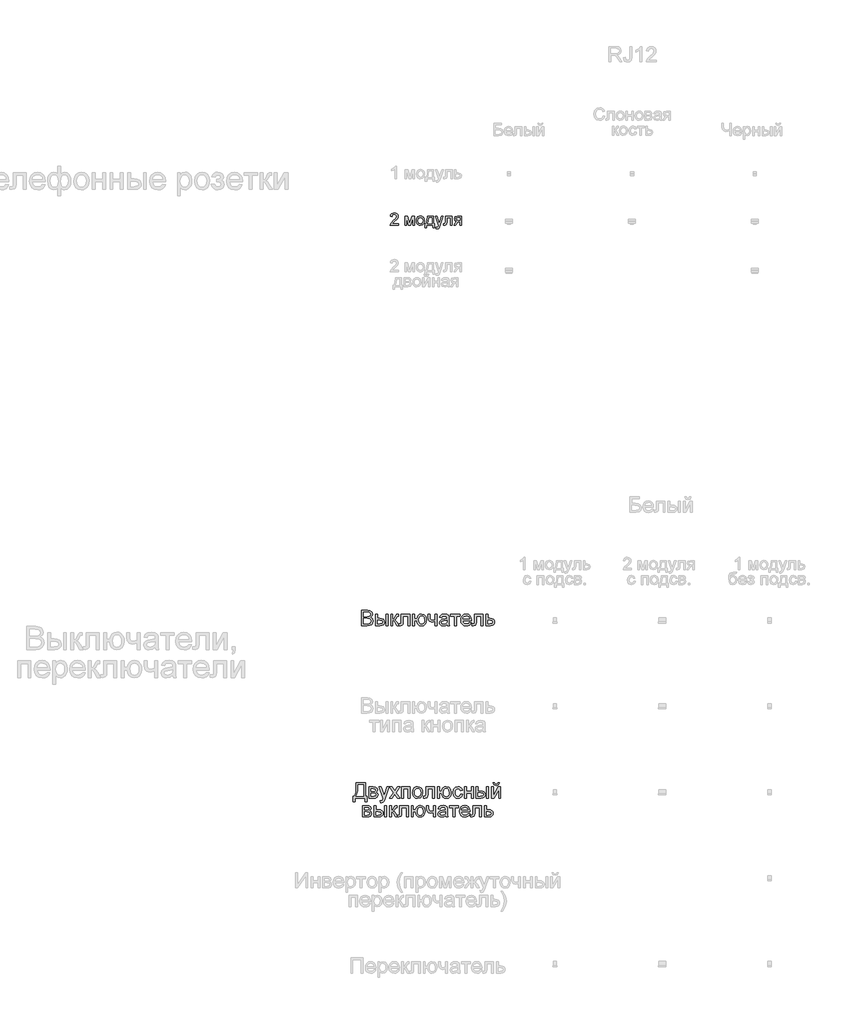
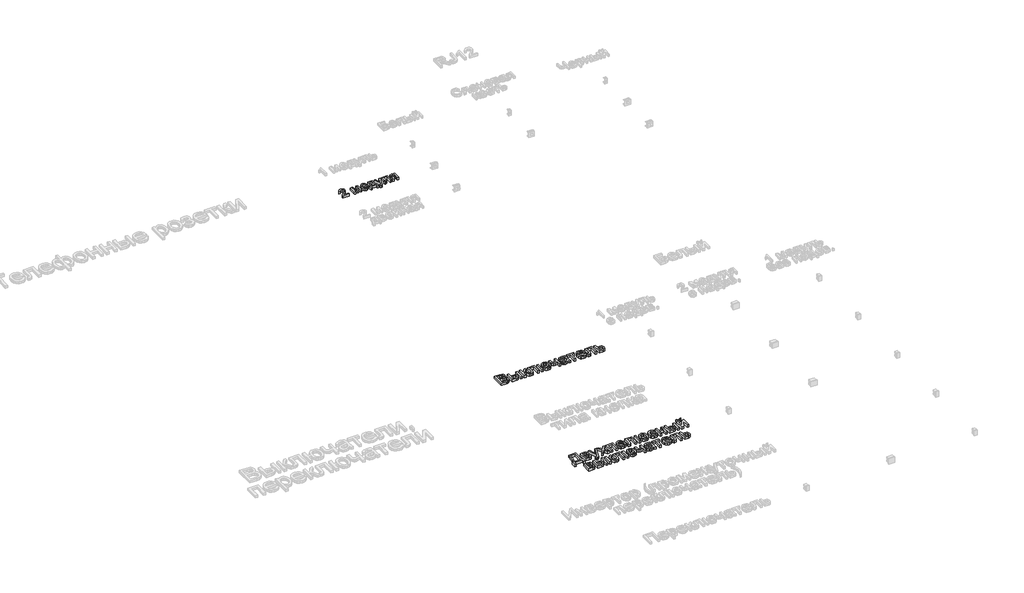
# One storey, part 5 of 47: 3 proxies.
"""IFC4 building model written with IfcOpenShell, lengths in millimetres."""

from ifc_helpers import new_model, si_unit, origin, origin_with_axes, place, context, project, spatial, polyline, outline, extrude, element, save

model = new_model("IFC4")

# Units and contexts
model_context = context("Model", 3, world=origin())
ifc_project = project(units=[si_unit("LENGTHUNIT", "METRE", prefix="MILLI")], contexts=[model_context])

# Site, building, storey
site = spatial("IfcSite", under=ifc_project)
building = spatial("IfcBuilding", under=site)
storey = spatial("IfcBuildingStorey", under=building, Name="Этаж 01", Elevation=0.0)

# Proxies
placement = place(None, origin())
element("IfcBuildingElementProxy", 1, Name="100 мм Arial", ObjectType="100 мм Arial", at=placement, inside=storey, context=model_context, shape_type="SweptSolid", body=[
    extrude(outline(polyline([(-956.6178439, -28665.4748677), (-956.6178439, -28565.0185576), (-918.28454, -28565.0185576), (-899.5102955, -28567.9738763), (-888.4247847, -28577.0605615), (-884.414871, -28589.9119059), (-887.7871226, -28601.6473416), (-897.9774539, -28610.5378231), (-885.6043561, -28619.9065513), (-881.2756113, -28635.5292733), (-884.23093, -28649.0305425), (-891.5517817, -28658.6445253), (-902.477877, -28663.7458223), (-918.5788456, -28665.4748677), (-956.6178439, -28665.4748677)]), holes=[polyline([(-944.0608051, -28605.8289336), (-921.1294941, -28605.8289336), (-907.7385895, -28604.749813), (-899.6819738, -28600.1022372), (-896.9719098, -28591.9229942), (-899.4980328, -28583.7314884), (-906.7330454, -28578.8877088), (-922.8708022, -28577.5755963), (-944.0608051, -28577.5755963), (-944.0608051, -28605.8289336)]), polyline([(-944.0608051, -28652.917829), (-918.3090655, -28652.917829), (-908.9893883, -28652.4273196), (-901.1044508, -28649.6927301), (-895.8805265, -28644.1131865), (-893.8326501, -28635.6519006), (-896.2361458, -28625.890765), (-904.0229813, -28620.0659668), (-919.5353388, -28618.3859723), (-944.0608051, -28618.3859723), (-944.0608051, -28652.917829)])]), origin_with_axes(), (0.0, 0.0, 1.0), 20.0),
    extrude(outline(polyline([(-796.5155996, -28591.702265), (-783.9585608, -28591.702265), (-783.9585608, -28665.4748677), (-796.5155996, -28665.4748677), (-796.5155996, -28591.702265)])), origin_with_axes(), (0.0, 0.0, 1.0), 20.0),
    extrude(outline(polyline([(-865.5793128, -28591.702265), (-853.0222741, -28591.702265), (-853.0222741, -28618.3859723), (-837.4976539, -28618.3859723), (-824.0791581, -28619.9586679), (-814.1371472, -28624.6767545), (-807.9843208, -28632.1600874), (-805.9333787, -28642.0285219), (-807.653227, -28651.0140396), (-812.812772, -28658.5954744), (-821.7492388, -28663.7550194), (-834.7998526, -28665.4748677), (-865.5793128, -28665.4748677), (-865.5793128, -28591.702265)]), holes=[polyline([(-853.0222741, -28652.917829), (-840.1218788, -28652.917829), (-823.4690871, -28650.2813413), (-818.4904175, -28642.0530474), (-822.1815001, -28634.3275255), (-838.4786725, -28630.9430111), (-853.0222741, -28630.9430111), (-853.0222741, -28652.917829)])]), origin_with_axes(), (0.0, 0.0, 1.0), 20.0),
    extrude(outline(polyline([(-697.6289193, -28591.702265), (-641.1222448, -28591.702265), (-641.1222448, -28665.4012913), (-653.6792836, -28665.4012913), (-653.6792836, -28604.2593037), (-685.0718805, -28604.2593037), (-685.0718805, -28639.4533479), (-685.9180091, -28655.6892066), (-690.565585, -28662.5440745), (-701.5529939, -28665.4748677), (-711.7555879, -28664.8372056), (-711.7555879, -28652.917829), (-706.1392561, -28652.917829), (-700.4616107, -28652.1452768), (-698.193005, -28649.6927301), (-697.6289193, -28638.7421094), (-697.6289193, -28591.702265)])), origin_with_axes(), (0.0, 0.0, 1.0), 20.0),
    extrude(outline(polyline([(-765.1230027, -28591.702265), (-752.5659639, -28591.702265), (-752.5659639, -28623.0948619), (-744.153729, -28620.838519), (-737.2620729, -28607.692869), (-731.5353765, -28596.3498408), (-726.4831305, -28592.6587581), (-717.2983433, -28591.702265), (-714.8948476, -28591.702265), (-714.8948476, -28604.3328801), (-718.279362, -28604.2593037), (-724.4107286, -28605.5836789), (-728.7272106, -28613.8487611), (-733.7917194, -28622.7882935), (-740.8918419, -28627.1660893), (-732.9701163, -28632.0527885), (-725.1955435, -28642.347353), (-711.7555879, -28665.4748677), (-726.0294093, -28665.4748677), (-739.1995848, -28642.8378623), (-745.8214607, -28633.2606677), (-752.5659639, -28630.9430111), (-752.5659639, -28665.4748677), (-765.1230027, -28665.4748677), (-765.1230027, -28591.702265)])), origin_with_axes(), (0.0, 0.0, 1.0), 20.0),
    extrude(outline(polyline([(-622.2866867, -28591.702265), (-609.7296479, -28591.702265), (-609.7296479, -28619.9556022), (-595.6029793, -28619.9556022), (-592.344158, -28607.1533088), (-585.8541064, -28597.7845806), (-576.5436263, -28592.0456215), (-564.823519, -28590.1326351), (-547.4472261, -28594.6330582), (-536.9503265, -28607.0306814), (-532.8177855, -28628.3187862), (-534.9545667, -28645.0696797), (-541.3649105, -28657.2097856), (-551.4356801, -28664.5858196), (-564.5537389, -28667.0444976), (-576.8134064, -28664.7391037), (-586.3691412, -28657.8229222), (-592.779485, -28646.8845642), (-595.6029793, -28632.512641), (-609.7296479, -28632.512641), (-609.7296479, -28665.4748677), (-622.2866867, -28665.4748677), (-622.2866867, -28591.702265)]), holes=[polyline([(-564.0141787, -28602.6896739), (-572.0186777, -28604.314486), (-578.0304827, -28609.1889225), (-583.0459405, -28627.411344), (-581.782879, -28639.5483841), (-577.9936945, -28647.951422), (-572.0891885, -28652.8534496), (-564.4801625, -28654.4874588), (-556.8496768, -28652.9760769), (-550.7336386, -28648.4419313), (-546.7145278, -28640.5416655), (-545.3748242, -28628.9319229), (-550.0101374, -28609.2502361), (-555.8288043, -28604.3298144), (-564.0141787, -28602.6896739)])]), origin_with_axes(), (0.0, 0.0, 1.0), 20.0),
    extrude(outline(polyline([(-521.8303765, -28591.702265), (-509.2733378, -28591.702265), (-509.2733378, -28605.853459), (-508.2555309, -28619.1217363), (-503.3627004, -28626.307698), (-493.6506157, -28629.3733813), (-476.311111, -28625.571934), (-476.311111, -28591.702265), (-463.7540722, -28591.702265), (-463.7540722, -28665.4748677), (-476.311111, -28665.4748677), (-476.311111, -28637.613938), (-497.0106046, -28641.93042), (-511.2476378, -28637.429997), (-519.6230846, -28626.4057998), (-521.8303765, -28612.058402), (-521.8303765, -28591.702265)])), origin_with_axes(), (0.0, 0.0, 1.0), 20.0),
    extrude(outline(polyline([(-397.8296187, -28656.0570886), (-410.0065127, -28664.5674255), (-423.458731, -28667.0444976), (-433.9525649, -28665.5545755), (-441.6934153, -28661.0848092), (-446.4666841, -28654.2973864), (-448.0577738, -28645.8544946), (-445.6542781, -28635.9216808), (-439.3389705, -28628.7111937), (-430.5465908, -28624.5909153), (-419.6818092, -28622.7024544), (-397.9031951, -28618.3859723), (-397.8296187, -28615.5900692), (-401.2877095, -28606.3194429), (-415.1691234, -28602.6896739), (-427.873315, -28605.1054323), (-433.9311052, -28613.6770828), (-446.4881439, -28612.107453), (-441.0557531, -28599.8447198), (-430.1173951, -28592.6587581), (-413.5504426, -28590.1326351), (-398.3323908, -28592.3644525), (-389.7362148, -28597.9685216), (-385.8857166, -28606.4911212), (-385.2725799, -28617.4785301), (-385.2725799, -28633.1012521), (-384.6349178, -28654.9166545), (-382.1333202, -28665.4748677), (-394.690359, -28665.4748677), (-397.8296187, -28656.0570886)]), holes=[polyline([(-397.8296187, -28630.9430111), (-418.0876539, -28634.7935093), (-428.8911218, -28636.829123), (-433.7839524, -28640.140061), (-435.500735, -28644.9715779), (-431.7606014, -28651.765132), (-420.7854552, -28654.4874588), (-408.0812636, -28651.4830892), (-399.8897579, -28644.2112884), (-397.9031951, -28634.4992037), (-397.8296187, -28630.9430111)])]), origin_with_axes(), (0.0, 0.0, 1.0), 20.0),
    extrude(outline(polyline([(-374.285171, -28591.702265), (-314.6392369, -28591.702265), (-314.6392369, -28604.2593037), (-338.1836846, -28604.2593037), (-338.1836846, -28665.4748677), (-350.7407233, -28665.4748677), (-350.7407233, -28604.2593037), (-374.285171, -28604.2593037), (-374.285171, -28591.702265)])), origin_with_axes(), (0.0, 0.0, 1.0), 20.0),
    extrude(outline(polyline([(-252.0011958, -28643.5000499), (-239.6894117, -28645.0696797), (-244.1254554, -28654.3464374), (-251.2041182, -28661.281013), (-260.7659843, -28665.6036264), (-272.6516385, -28667.0444976), (-287.3853124, -28664.5582284), (-298.7222092, -28657.099421), (-305.9510904, -28645.1524532), (-308.3607175, -28629.201703), (-305.9265649, -28612.7144582), (-298.6241073, -28600.38428), (-287.4404947, -28592.6955463), (-273.362877, -28590.1326351), (-259.723652, -28592.689415), (-248.8251479, -28600.3597546), (-241.6790402, -28612.6654073), (-239.2970042, -28629.1281266), (-239.3705806, -28632.512641), (-295.8036787, -28632.512641), (-293.6301093, -28641.9120259), (-288.5809289, -28648.8220761), (-281.2937997, -28653.0711131), (-272.4063838, -28654.4874588), (-260.0945997, -28651.8632339), (-252.0011958, -28643.5000499)]), holes=[polyline([(-295.8036787, -28619.9556022), (-251.854043, -28619.9556022), (-256.8817636, -28608.5757858), (-264.2026153, -28604.1612019), (-273.4119279, -28602.6896739), (-288.8752345, -28607.3863007), (-293.7404739, -28612.8769395), (-295.8036787, -28619.9556022)])]), origin_with_axes(), (0.0, 0.0, 1.0), 20.0),
    extrude(outline(polyline([(-220.4614461, -28591.702265), (-163.9547716, -28591.702265), (-163.9547716, -28665.4012913), (-176.5118104, -28665.4012913), (-176.5118104, -28604.2593037), (-207.9044073, -28604.2593037), (-207.9044073, -28639.4533479), (-208.7505359, -28655.6892066), (-213.3981118, -28662.5440745), (-224.3855207, -28665.4748677), (-234.5881147, -28664.8372056), (-234.5881147, -28652.917829), (-228.9717829, -28652.917829), (-223.2941375, -28652.1452768), (-221.0255318, -28649.6927301), (-220.4614461, -28638.7421094), (-220.4614461, -28591.702265)])), origin_with_axes(), (0.0, 0.0, 1.0), 20.0),
    extrude(outline(polyline([(-145.1192135, -28591.702265), (-132.5621747, -28591.702265), (-132.5621747, -28618.3859723), (-118.0921496, -28618.3859723), (-105.5473735, -28619.9586679), (-96.2644845, -28624.6767545), (-90.5255254, -28632.1600874), (-88.612539, -28642.0285219), (-90.2404169, -28651.0140396), (-95.1240503, -28658.5954744), (-103.5884019, -28663.7550194), (-115.958434, -28665.4748677), (-145.1192135, -28665.4748677), (-145.1192135, -28591.702265)]), holes=[polyline([(-132.5621747, -28652.917829), (-120.8390018, -28652.917829), (-105.6945263, -28650.2813413), (-101.1695778, -28642.0530474), (-104.5173039, -28634.3275255), (-119.3429484, -28630.9430111), (-132.5621747, -28630.9430111), (-132.5621747, -28652.917829)])]), origin_with_axes(), (0.0, 0.0, 1.0), 20.0),
])
element("IfcBuildingElementProxy", 2, Name="100 мм Arial", ObjectType="100 мм Arial", at=placement, inside=storey, context=model_context, shape_type="SweptSolid", body=[
    extrude(outline(polyline([(-990.3648856, -29690.0185576), (-930.7189514, -29690.0185576), (-930.7189514, -29777.917829), (-921.3011724, -29777.917829), (-921.3011724, -29814.0193154), (-933.8582111, -29814.0193154), (-933.8582111, -29790.4748677), (-998.2130348, -29790.4748677), (-998.2130348, -29814.0193154), (-1010.7700736, -29814.0193154), (-1010.7700736, -29777.917829), (-1002.9219244, -29777.917829), (-993.5041453, -29750.5044889), (-990.3648856, -29704.5621591), (-990.3648856, -29690.0185576)]), holes=[polyline([(-943.2759902, -29702.5755963), (-977.8078468, -29702.5755963), (-977.8078468, -29707.6278424), (-980.3584953, -29742.0370717), (-984.1354171, -29761.9210935), (-990.3648856, -29777.917829), (-943.2759902, -29777.917829), (-943.2759902, -29702.5755963)])]), origin_with_axes(), (0.0, 0.0, 1.0), 20.0),
    extrude(outline(polyline([(-907.1745038, -29716.702265), (-879.5097777, -29716.702265), (-864.3407768, -29718.3822594), (-855.8059145, -29724.5381515), (-852.2374591, -29735.268043), (-854.3957002, -29743.9868463), (-860.8949488, -29750.204052), (-852.4581883, -29757.0098689), (-849.0981995, -29768.8434064), (-851.2257837, -29778.4144696), (-856.2841611, -29785.1528415), (-864.2917259, -29789.1443612), (-875.266872, -29790.4748677), (-907.1745038, -29790.4748677), (-907.1745038, -29716.702265)]), holes=[polyline([(-894.617465, -29744.9556022), (-882.207579, -29744.9556022), (-871.9681968, -29744.3179401), (-866.9895272, -29741.7672916), (-864.7944979, -29737.1565039), (-868.6449961, -29731.0006118), (-881.8151716, -29729.2593037), (-894.617465, -29729.2593037), (-894.617465, -29744.9556022)]), polyline([(-894.617465, -29777.917829), (-879.2154721, -29777.917829), (-865.5547874, -29775.6492233), (-861.6552382, -29767.8133368), (-863.8012165, -29761.7678094), (-869.3930229, -29758.2484049), (-880.4417454, -29757.512641), (-894.617465, -29757.512641), (-894.617465, -29777.917829)])]), origin_with_axes(), (0.0, 0.0, 1.0), 20.0),
    extrude(outline(polyline([(-833.401901, -29818.7282049), (-834.9715308, -29806.63715), (-828.5949096, -29807.740796), (-822.6352213, -29806.3551072), (-818.9809268, -29802.4923462), (-815.5473615, -29793.2462454), (-814.5663428, -29790.2050876), (-841.2500502, -29716.702265), (-828.0062984, -29716.702265), (-813.8551043, -29757.6597937), (-808.9254856, -29774.0428053), (-803.9958668, -29759.5727801), (-789.4522653, -29716.702265), (-776.3066153, -29716.702265), (-801.9847786, -29792.2407013), (-808.6557055, -29808.6237128), (-815.939769, -29817.4774062), (-825.72543, -29820.2978348), (-833.401901, -29818.7282049)])), origin_with_axes(), (0.0, 0.0, 1.0), 20.0),
    extrude(outline(polyline([(-773.7559668, -29790.4748677), (-746.9251067, -29753.3923626), (-772.186337, -29716.702265), (-757.0786497, -29716.702265), (-744.889493, -29734.3606007), (-739.1995848, -29742.6992593), (-734.269966, -29735.8811796), (-720.3885521, -29716.702265), (-705.2808648, -29716.702265), (-731.8174194, -29753.3923626), (-706.2618835, -29790.4748677), (-721.3695707, -29790.4748677), (-736.7470381, -29768.1812188), (-739.5674668, -29764.1099914), (-758.6482796, -29790.4748677), (-773.7559668, -29790.4748677)])), origin_with_axes(), (0.0, 0.0, 1.0), 20.0),
    extrude(outline(polyline([(-695.2744745, -29716.702265), (-638.7678001, -29716.702265), (-638.7678001, -29790.4748677), (-651.3248388, -29790.4748677), (-651.3248388, -29729.2593037), (-682.7174358, -29729.2593037), (-682.7174358, -29790.4748677), (-695.2744745, -29790.4748677), (-695.2744745, -29716.702265)])), origin_with_axes(), (0.0, 0.0, 1.0), 20.0),
    extrude(outline(polyline([(-623.0715016, -29753.5885663), (-620.3553062, -29735.8014719), (-612.20672, -29723.2996154), (-602.1390161, -29717.1743802), (-590.0847494, -29715.1326351), (-576.8931142, -29717.6189043), (-566.3563607, -29725.0777117), (-559.4493762, -29736.9204463), (-557.1470481, -29752.5584968), (-561.2182755, -29774.9011966), (-573.0763385, -29787.5440745), (-590.0847494, -29792.0444976), (-603.4358001, -29789.5674255), (-613.9602909, -29782.1362092), (-620.7936989, -29770.0451543), (-623.0715016, -29753.5885663)]), holes=[polyline([(-610.5144628, -29753.5640409), (-609.061329, -29764.9285288), (-604.7019273, -29773.0249984), (-598.1413651, -29777.8718437), (-590.0847494, -29779.4874588), (-582.0649219, -29777.8626467), (-575.5166224, -29772.9882102), (-571.1572207, -29764.7844417), (-569.7040868, -29753.1716334), (-571.1664178, -29742.1382392), (-575.5534106, -29734.1521343), (-582.1109071, -29729.305289), (-590.0847494, -29727.6896739), (-598.1413651, -29729.2991576), (-604.7019273, -29734.1276088), (-609.061329, -29742.2056843), (-610.5144628, -29753.5640409)])]), origin_with_axes(), (0.0, 0.0, 1.0), 20.0),
    extrude(outline(polyline([(-536.7418601, -29716.702265), (-480.2351856, -29716.702265), (-480.2351856, -29790.4012913), (-492.7922244, -29790.4012913), (-492.7922244, -29729.2593037), (-524.1848213, -29729.2593037), (-524.1848213, -29764.4533479), (-525.0309499, -29780.6892066), (-529.6785258, -29787.5440745), (-540.6659347, -29790.4748677), (-550.8685287, -29789.8372056), (-550.8685287, -29777.917829), (-545.2521969, -29777.917829), (-539.5745514, -29777.1452768), (-537.3059458, -29774.6927301), (-536.7418601, -29763.7421094), (-536.7418601, -29716.702265)])), origin_with_axes(), (0.0, 0.0, 1.0), 20.0),
    extrude(outline(polyline([(-461.3996275, -29716.702265), (-448.8425887, -29716.702265), (-448.8425887, -29744.9556022), (-434.7159201, -29744.9556022), (-431.4570987, -29732.1533088), (-424.9670472, -29722.7845806), (-415.6565671, -29717.0456215), (-403.9364598, -29715.1326351), (-386.5601669, -29719.6330582), (-376.0632673, -29732.0306814), (-371.9307262, -29753.3187862), (-374.0675075, -29770.0696797), (-380.4778513, -29782.2097856), (-390.5486209, -29789.5858196), (-403.6666797, -29792.0444976), (-415.9263472, -29789.7391037), (-425.482082, -29782.8229222), (-431.8924258, -29771.8845642), (-434.7159201, -29757.512641), (-448.8425887, -29757.512641), (-448.8425887, -29790.4748677), (-461.3996275, -29790.4748677), (-461.3996275, -29716.702265)]), holes=[polyline([(-403.1271194, -29727.6896739), (-411.1316185, -29729.314486), (-417.1434234, -29734.1889225), (-422.1588813, -29752.411344), (-420.8958198, -29764.5483841), (-417.1066353, -29772.951422), (-411.2021292, -29777.8534496), (-403.5931033, -29779.4874588), (-395.9626176, -29777.9760769), (-389.8465794, -29773.4419313), (-385.8274686, -29765.5416655), (-384.487765, -29753.9319229), (-389.1230782, -29734.2502361), (-394.941745, -29729.3298144), (-403.1271194, -29727.6896739)])]), origin_with_axes(), (0.0, 0.0, 1.0), 20.0),
    extrude(outline(polyline([(-309.1455324, -29763.7911603), (-296.5884936, -29765.3607902), (-300.089504, -29776.5290744), (-306.6684603, -29784.9689005), (-315.7060946, -29790.2755983), (-326.583139, -29792.0444976), (-339.9403211, -29789.5766225), (-350.3851041, -29782.1729974), (-357.1265416, -29770.1585845), (-359.3736875, -29753.8583465), (-355.535452, -29732.9994373), (-343.8368045, -29719.59627), (-326.7548172, -29715.1326351), (-316.1444874, -29716.6654768), (-307.6617417, -29721.2640017), (-301.5763603, -29728.6829553), (-298.1581235, -29738.6770828), (-310.7151622, -29740.2467126), (-316.5399605, -29730.8411963), (-326.6567154, -29727.6896739), (-334.771579, -29729.2409096), (-341.2125796, -29733.8946169), (-345.4156314, -29741.9021816), (-346.8166487, -29753.5149899), (-345.4462883, -29765.2841481), (-341.335207, -29773.319304), (-335.0107023, -29777.9454201), (-327.0000719, -29779.4874588), (-315.1665344, -29775.6369606), (-309.1455324, -29763.7911603)])), origin_with_axes(), (0.0, 0.0, 1.0), 20.0),
    extrude(outline(polyline([(-285.6010847, -29716.702265), (-273.0440459, -29716.702265), (-273.0440459, -29744.9556022), (-240.0818192, -29744.9556022), (-240.0818192, -29716.702265), (-227.5247804, -29716.702265), (-227.5247804, -29790.4748677), (-240.0818192, -29790.4748677), (-240.0818192, -29757.512641), (-273.0440459, -29757.512641), (-273.0440459, -29790.4748677), (-285.6010847, -29790.4748677), (-285.6010847, -29716.702265)])), origin_with_axes(), (0.0, 0.0, 1.0), 20.0),
    extrude(outline(polyline([(-139.625509, -29716.702265), (-127.0684703, -29716.702265), (-127.0684703, -29790.4748677), (-139.625509, -29790.4748677), (-139.625509, -29716.702265)])), origin_with_axes(), (0.0, 0.0, 1.0), 20.0),
    extrude(outline(polyline([(-208.6892222, -29716.702265), (-196.1321835, -29716.702265), (-196.1321835, -29743.3859723), (-180.6075633, -29743.3859723), (-167.1890675, -29744.9586679), (-157.2470566, -29749.6767545), (-151.0942302, -29757.1600874), (-149.0432881, -29767.0285219), (-150.7631364, -29776.0140396), (-155.9226814, -29783.5954744), (-164.8591482, -29788.7550194), (-177.909762, -29790.4748677), (-208.6892222, -29790.4748677), (-208.6892222, -29716.702265)]), holes=[polyline([(-196.1321835, -29777.917829), (-183.2317882, -29777.917829), (-166.5789965, -29775.2813413), (-161.6003269, -29767.0530474), (-165.2914096, -29759.3275255), (-181.5885819, -29755.9430111), (-196.1321835, -29755.9430111), (-196.1321835, -29777.917829)])]), origin_with_axes(), (0.0, 0.0, 1.0), 20.0),
    extrude(outline(polyline([(-108.2329121, -29716.702265), (-95.6758733, -29716.702265), (-95.6758733, -29772.9636847), (-64.8228367, -29716.702265), (-48.5869779, -29716.702265), (-48.5869779, -29790.4748677), (-61.1440167, -29790.4748677), (-61.1440167, -29734.5568045), (-91.8008496, -29790.4748677), (-108.2329121, -29790.4748677), (-108.2329121, -29716.702265)])), origin_with_axes(), (0.0, 0.0, 1.0), 20.0),
    extrude(outline(polyline([(-67.4225361, -29690.0185576), (-58.004757, -29690.0185576), (-64.0993354, -29703.9858107), (-77.6251301, -29708.8541157), (-92.2668335, -29704.0225989), (-98.815133, -29690.0185576), (-89.3973539, -29690.0185576), (-85.8656868, -29697.0941546), (-78.7533016, -29699.4363366), (-70.9542033, -29697.167731), (-67.4225361, -29690.0185576)])), origin_with_axes(), (0.0, 0.0, 1.0), 20.0),
    extrude(outline(polyline([(-948.7696947, -29838.6770828), (-921.1049686, -29838.6770828), (-905.9359677, -29840.3570772), (-897.4011054, -29846.5129693), (-893.8326501, -29857.2428608), (-895.9908911, -29865.9616641), (-902.4901397, -29872.1788698), (-894.0533793, -29878.9846867), (-890.6933904, -29890.8182242), (-892.8209746, -29900.3892875), (-897.879352, -29907.1276594), (-905.8869168, -29911.119179), (-916.862063, -29912.4496856), (-948.7696947, -29912.4496856), (-948.7696947, -29838.6770828)]), holes=[polyline([(-936.2126559, -29866.93042), (-923.8027699, -29866.93042), (-913.5633877, -29866.2927579), (-908.5847181, -29863.7421094), (-906.3896888, -29859.1313217), (-910.2401871, -29852.9754297), (-923.4103625, -29851.2341216), (-936.2126559, -29851.2341216), (-936.2126559, -29866.93042)]), polyline([(-936.2126559, -29899.8926468), (-920.810663, -29899.8926468), (-907.1499783, -29897.6240412), (-903.2504291, -29889.7881547), (-905.3964074, -29883.7426272), (-910.9882138, -29880.2232228), (-922.0369364, -29879.4874588), (-936.2126559, -29879.4874588), (-936.2126559, -29899.8926468)])]), origin_with_axes(), (0.0, 0.0, 1.0), 20.0),
    extrude(outline(polyline([(-805.9333787, -29838.6770828), (-793.3763399, -29838.6770828), (-793.3763399, -29912.4496856), (-805.9333787, -29912.4496856), (-805.9333787, -29838.6770828)])), origin_with_axes(), (0.0, 0.0, 1.0), 20.0),
    extrude(outline(polyline([(-874.9970919, -29838.6770828), (-862.4400531, -29838.6770828), (-862.4400531, -29865.3607902), (-846.9154329, -29865.3607902), (-833.4969372, -29866.9334857), (-823.5549263, -29871.6515723), (-817.4020999, -29879.1349052), (-815.3511578, -29889.0033397), (-817.0710061, -29897.9888575), (-822.2305511, -29905.5702923), (-831.1670179, -29910.7298372), (-844.2176317, -29912.4496856), (-874.9970919, -29912.4496856), (-874.9970919, -29838.6770828)]), holes=[polyline([(-862.4400531, -29899.8926468), (-849.5396578, -29899.8926468), (-832.8868662, -29897.2561592), (-827.9081965, -29889.0278652), (-831.5992792, -29881.3023433), (-847.8964516, -29877.917829), (-862.4400531, -29877.917829), (-862.4400531, -29899.8926468)])]), origin_with_axes(), (0.0, 0.0, 1.0), 20.0),
    extrude(outline(polyline([(-707.0466984, -29838.6770828), (-650.5400239, -29838.6770828), (-650.5400239, -29912.3761092), (-663.0970627, -29912.3761092), (-663.0970627, -29851.2341216), (-694.4896596, -29851.2341216), (-694.4896596, -29886.4281658), (-695.3357882, -29902.6640245), (-699.9833641, -29909.5188923), (-710.970773, -29912.4496856), (-721.173367, -29911.8120234), (-721.173367, -29899.8926468), (-715.5570352, -29899.8926468), (-709.8793897, -29899.1200946), (-707.6107841, -29896.667548), (-707.0466984, -29885.7169272), (-707.0466984, -29838.6770828)])), origin_with_axes(), (0.0, 0.0, 1.0), 20.0),
    extrude(outline(polyline([(-774.5407818, -29838.6770828), (-761.983743, -29838.6770828), (-761.983743, -29870.0696797), (-753.571508, -29867.8133368), (-746.679852, -29854.6676869), (-740.9531556, -29843.3246587), (-735.9009095, -29839.633576), (-726.7161224, -29838.6770828), (-724.3126267, -29838.6770828), (-724.3126267, -29851.307698), (-727.697141, -29851.2341216), (-733.8285076, -29852.5584968), (-738.1449897, -29860.8235789), (-743.2094985, -29869.7631114), (-750.309621, -29874.1409071), (-742.3878954, -29879.0276063), (-734.6133226, -29889.3221708), (-721.173367, -29912.4496856), (-735.4471884, -29912.4496856), (-748.6173638, -29889.8126801), (-755.2392398, -29880.2354855), (-761.983743, -29877.917829), (-761.983743, -29912.4496856), (-774.5407818, -29912.4496856), (-774.5407818, -29838.6770828)])), origin_with_axes(), (0.0, 0.0, 1.0), 20.0),
    extrude(outline(polyline([(-631.7044658, -29838.6770828), (-619.147427, -29838.6770828), (-619.147427, -29866.93042), (-605.0207584, -29866.93042), (-601.761937, -29854.1281266), (-595.2718855, -29844.7593985), (-585.9614054, -29839.0204393), (-574.2412981, -29837.107453), (-556.8650052, -29841.607876), (-546.3681056, -29854.0054993), (-542.2355645, -29875.2936041), (-544.3723458, -29892.0444976), (-550.7826896, -29904.1846034), (-560.8534592, -29911.5606374), (-573.971518, -29914.0193154), (-586.2311855, -29911.7139216), (-595.7869203, -29904.7977401), (-602.1972641, -29893.8593821), (-605.0207584, -29879.4874588), (-619.147427, -29879.4874588), (-619.147427, -29912.4496856), (-631.7044658, -29912.4496856), (-631.7044658, -29838.6770828)]), holes=[polyline([(-573.4319577, -29849.6644917), (-581.4364568, -29851.2893039), (-587.4482618, -29856.1637403), (-592.4637196, -29874.3861618), (-591.2006581, -29886.523202), (-587.4114736, -29894.9262399), (-581.5069675, -29899.8282674), (-573.8979416, -29901.4622766), (-566.2674559, -29899.9508948), (-560.1514177, -29895.4167492), (-556.1323069, -29887.5164833), (-554.7926033, -29875.9067407), (-559.4279165, -29856.225054), (-565.2465833, -29851.3046323), (-573.4319577, -29849.6644917)])]), origin_with_axes(), (0.0, 0.0, 1.0), 20.0),
    extrude(outline(polyline([(-531.2481556, -29838.6770828), (-518.6911169, -29838.6770828), (-518.6911169, -29852.8282769), (-517.67331, -29866.0965542), (-512.7804795, -29873.2825158), (-503.0683948, -29876.3481991), (-485.7288901, -29872.5467518), (-485.7288901, -29838.6770828), (-473.1718513, -29838.6770828), (-473.1718513, -29912.4496856), (-485.7288901, -29912.4496856), (-485.7288901, -29884.5887558), (-506.4283837, -29888.9052379), (-520.6654169, -29884.4048148), (-529.0408636, -29873.3806177), (-531.2481556, -29859.0332199), (-531.2481556, -29838.6770828)])), origin_with_axes(), (0.0, 0.0, 1.0), 20.0),
    extrude(outline(polyline([(-407.2473978, -29903.0319065), (-419.4242918, -29911.5422433), (-432.8765101, -29914.0193154), (-443.370344, -29912.5293933), (-451.1111943, -29908.0596271), (-455.8844632, -29901.2722043), (-457.4755529, -29892.8293125), (-455.0720572, -29882.8964986), (-448.7567496, -29875.6860115), (-439.9643699, -29871.5657332), (-429.0995883, -29869.6772723), (-407.3209742, -29865.3607902), (-407.2473978, -29862.564887), (-410.7054885, -29853.2942607), (-424.5869025, -29849.6644917), (-437.2910941, -29852.0802502), (-443.3488842, -29860.6519006), (-455.905923, -29859.0822708), (-450.4735322, -29846.8195376), (-439.5351742, -29839.633576), (-422.9682217, -29837.107453), (-407.7501698, -29839.3392704), (-399.1539939, -29844.9433394), (-395.3034957, -29853.465939), (-394.690359, -29864.4533479), (-394.690359, -29880.07607), (-394.0526969, -29901.8914723), (-391.5510993, -29912.4496856), (-404.1081381, -29912.4496856), (-407.2473978, -29903.0319065)]), holes=[polyline([(-407.2473978, -29877.917829), (-427.505433, -29881.7683272), (-438.3089009, -29883.8039409), (-443.2017314, -29887.1148788), (-444.9185141, -29891.9463957), (-441.1783805, -29898.7399499), (-430.2032343, -29901.4622766), (-417.4990427, -29898.457907), (-409.307537, -29891.1861062), (-407.3209742, -29881.4740216), (-407.2473978, -29877.917829)])]), origin_with_axes(), (0.0, 0.0, 1.0), 20.0),
    extrude(outline(polyline([(-383.7029501, -29838.6770828), (-324.0570159, -29838.6770828), (-324.0570159, -29851.2341216), (-347.6014636, -29851.2341216), (-347.6014636, -29912.4496856), (-360.1585024, -29912.4496856), (-360.1585024, -29851.2341216), (-383.7029501, -29851.2341216), (-383.7029501, -29838.6770828)])), origin_with_axes(), (0.0, 0.0, 1.0), 20.0),
    extrude(outline(polyline([(-261.4189749, -29890.4748677), (-249.1071908, -29892.0444976), (-253.5432345, -29901.3212552), (-260.6218972, -29908.2558308), (-270.1837634, -29912.5784443), (-282.0694176, -29914.0193154), (-296.8030915, -29911.5330463), (-308.1399883, -29904.0742388), (-315.3688695, -29892.127271), (-317.7784966, -29876.1765208), (-315.344344, -29859.6892761), (-308.0418864, -29847.3590979), (-296.8582738, -29839.6703642), (-282.7806561, -29837.107453), (-269.1414311, -29839.6642328), (-258.242927, -29847.3345724), (-251.0968192, -29859.6402252), (-248.7147833, -29876.1029444), (-248.7883597, -29879.4874588), (-305.2214578, -29879.4874588), (-303.0478883, -29888.8868438), (-297.9987079, -29895.7968939), (-290.7115788, -29900.045931), (-281.8241629, -29901.4622766), (-269.5123788, -29898.8380517), (-261.4189749, -29890.4748677)]), holes=[polyline([(-305.2214578, -29866.93042), (-261.2718221, -29866.93042), (-266.2995427, -29855.5506036), (-273.6203944, -29851.1360197), (-282.829707, -29849.6644917), (-298.2930135, -29854.3611185), (-303.1582529, -29859.8517573), (-305.2214578, -29866.93042)])]), origin_with_axes(), (0.0, 0.0, 1.0), 20.0),
    extrude(outline(polyline([(-229.8792252, -29838.6770828), (-173.3725507, -29838.6770828), (-173.3725507, -29912.3761092), (-185.9295895, -29912.3761092), (-185.9295895, -29851.2341216), (-217.3221864, -29851.2341216), (-217.3221864, -29886.4281658), (-218.168315, -29902.6640245), (-222.8158909, -29909.5188923), (-233.8032998, -29912.4496856), (-244.0058938, -29911.8120234), (-244.0058938, -29899.8926468), (-238.389562, -29899.8926468), (-232.7119165, -29899.1200946), (-230.4433109, -29896.667548), (-229.8792252, -29885.7169272), (-229.8792252, -29838.6770828)])), origin_with_axes(), (0.0, 0.0, 1.0), 20.0),
    extrude(outline(polyline([(-154.5369926, -29838.6770828), (-141.9799538, -29838.6770828), (-141.9799538, -29865.3607902), (-127.5099286, -29865.3607902), (-114.9651526, -29866.9334857), (-105.6822636, -29871.6515723), (-99.9433045, -29879.1349052), (-98.0303181, -29889.0033397), (-99.6581959, -29897.9888575), (-104.5418294, -29905.5702923), (-113.006181, -29910.7298372), (-125.3762131, -29912.4496856), (-154.5369926, -29912.4496856), (-154.5369926, -29838.6770828)]), holes=[polyline([(-141.9799538, -29899.8926468), (-130.2567809, -29899.8926468), (-115.1123054, -29897.2561592), (-110.5873569, -29889.0278652), (-113.935083, -29881.3023433), (-128.7607274, -29877.917829), (-141.9799538, -29877.917829), (-141.9799538, -29899.8926468)])]), origin_with_axes(), (0.0, 0.0, 1.0), 20.0),
])
element("IfcBuildingElementProxy", 3, Name="80 мм Arial", ObjectType="80 мм Arial", at=placement, inside=storey, context=model_context, shape_type="SweptSolid", body=[
    extrude(outline(polyline([(-716.3866477, -26045.1206602), (-716.3866477, -26055.1662912), (-769.1262105, -26055.1662912), (-768.04709, -26048.2402995), (-761.945154, -26037.5766267), (-749.3684948, -26025.9319353), (-732.024085, -26009.1957571), (-727.6879826, -25997.8159407), (-731.7788304, -25988.6041755), (-742.4621235, -25984.8468741), (-753.5966852, -25988.5158838), (-757.8248756, -25998.6596167), (-767.8705066, -25997.4039128), (-765.4351278, -25987.6869231), (-760.1695102, -25980.5892531), (-752.348339, -25976.2482456), (-742.2462994, -25974.801243), (-732.0706834, -25976.4101136), (-724.2642275, -25981.2367254), (-719.2978206, -25988.4472125), (-717.6423516, -25997.2077091), (-719.4278055, -26006.7334002), (-725.3629684, -26016.5828275), (-739.754512, -26030.3465192), (-751.3109118, -26040.009553), (-755.843218, -26045.1206602), (-716.3866477, -26045.1206602)])), origin_with_axes(), (0.0, 0.0, 1.0), 20.0),
    extrude(outline(polyline([(-672.437012, -25996.148209), (-655.1514633, -25996.148209), (-641.82923, -26043.3940673), (-627.4671169, -25996.148209), (-610.907522, -25996.148209), (-610.907522, -26055.1662912), (-620.9531531, -26055.1662912), (-620.9531531, -26007.6457476), (-635.3937476, -26055.1662912), (-648.5786383, -26055.1662912), (-662.391381, -26005.3697843), (-662.391381, -26055.1662912), (-672.437012, -26055.1662912), (-672.437012, -25996.148209)])), origin_with_axes(), (0.0, 0.0, 1.0), 20.0),
    extrude(outline(polyline([(-598.3504833, -26025.6572501), (-596.177527, -26011.4275745), (-589.658658, -26001.4260893), (-581.6044948, -25996.5259011), (-571.9610815, -25994.8925051), (-561.4077733, -25996.8815204), (-552.9783705, -26002.8485664), (-547.452783, -26012.322754), (-545.6109204, -26024.8331944), (-548.8679024, -26042.7073543), (-558.3543528, -26052.8216566), (-571.9610815, -26056.421995), (-582.6419221, -26054.4403374), (-591.0615147, -26048.4953643), (-596.5282411, -26038.8225204), (-598.3504833, -26025.6572501)]), holes=[polyline([(-588.3048523, -26025.6376297), (-583.6548238, -26041.2063957), (-571.9610815, -26046.376364), (-560.3065799, -26041.1769652), (-555.6565515, -26025.3237037), (-560.3360104, -26010.1081044), (-571.9610815, -26004.9381361), (-583.6548238, -26010.088484), (-588.3048523, -26025.6376297)])]), origin_with_axes(), (0.0, 0.0, 1.0), 20.0),
    extrude(outline(polyline([(-525.5196584, -25996.148209), (-487.8485421, -25996.148209), (-487.8485421, -26045.1206602), (-480.3143188, -26045.1206602), (-480.3143188, -26071.4904416), (-490.3599499, -26071.4904416), (-490.3599499, -26055.1662912), (-531.7981778, -26055.1662912), (-531.7981778, -26071.4904416), (-541.8438088, -26071.4904416), (-541.8438088, -26045.1206602), (-535.5652894, -26045.1206602), (-527.8054319, -26025.9613658), (-525.5196584, -25996.148209)]), holes=[polyline([(-516.7297313, -26006.19384), (-519.084176, -26029.0810052), (-524.2639545, -26045.1206602), (-497.8941731, -26045.1206602), (-497.8941731, -26006.19384), (-516.7297313, -26006.19384)])]), origin_with_axes(), (0.0, 0.0, 1.0), 20.0),
    extrude(outline(polyline([(-469.012984, -26077.768961), (-470.2686878, -26068.096117), (-465.1673908, -26068.9790338), (-460.3996402, -26067.8704827), (-457.4762046, -26064.780274), (-454.7293524, -26057.3833933), (-453.9445374, -26054.9504671), (-475.2915033, -25996.148209), (-464.6965019, -25996.148209), (-453.3755466, -26028.914232), (-449.4318516, -26042.0206412), (-445.4881566, -26030.4446211), (-433.8532754, -25996.148209), (-423.3367554, -25996.148209), (-443.879286, -26056.578958), (-449.2160275, -26069.6853672), (-455.0432783, -26076.7683219), (-462.8718072, -26079.0246648), (-469.012984, -26077.768961)])), origin_with_axes(), (0.0, 0.0, 1.0), 20.0),
    extrude(outline(polyline([(-409.9949017, -25996.148209), (-364.7895622, -25996.148209), (-364.7895622, -26055.1074301), (-374.8351932, -26055.1074301), (-374.8351932, -26006.19384), (-399.9492707, -26006.19384), (-399.9492707, -26034.3490753), (-400.6261736, -26047.3377623), (-404.3442343, -26052.8216566), (-413.1341614, -26055.1662912), (-421.2962366, -26054.6561615), (-421.2962366, -26045.1206602), (-416.8031712, -26045.1206602), (-412.2610548, -26044.5026184), (-410.4461703, -26042.5405811), (-409.9949017, -26033.7800845), (-409.9949017, -25996.148209)])), origin_with_axes(), (0.0, 0.0, 1.0), 20.0),
    extrude(outline(polyline([(-304.5157761, -25996.148209), (-304.5157761, -26055.1662912), (-314.5614071, -26055.1662912), (-314.5614071, -26032.5636214), (-320.0354912, -26032.5636214), (-327.491233, -26033.8389456), (-334.4957061, -26042.4130487), (-342.5008184, -26055.1662912), (-354.1160792, -26055.1662912), (-344.0312075, -26039.0383445), (-335.4767248, -26030.6800656), (-347.1704671, -26024.5781295), (-350.9768195, -26013.1983132), (-345.7774207, -26000.8767189), (-330.7285945, -25996.148209), (-304.5157761, -25996.148209)]), holes=[polyline([(-314.5614071, -26006.19384), (-327.8051589, -26006.19384), (-338.5276928, -26008.5188542), (-340.9311885, -26013.9635077), (-337.3897112, -26020.448041), (-324.8424826, -26022.5179904), (-314.5614071, -26022.5179904), (-314.5614071, -26006.19384)])]), origin_with_axes(), (0.0, 0.0, 1.0), 20.0),
])

save(model, "model.ifc")
